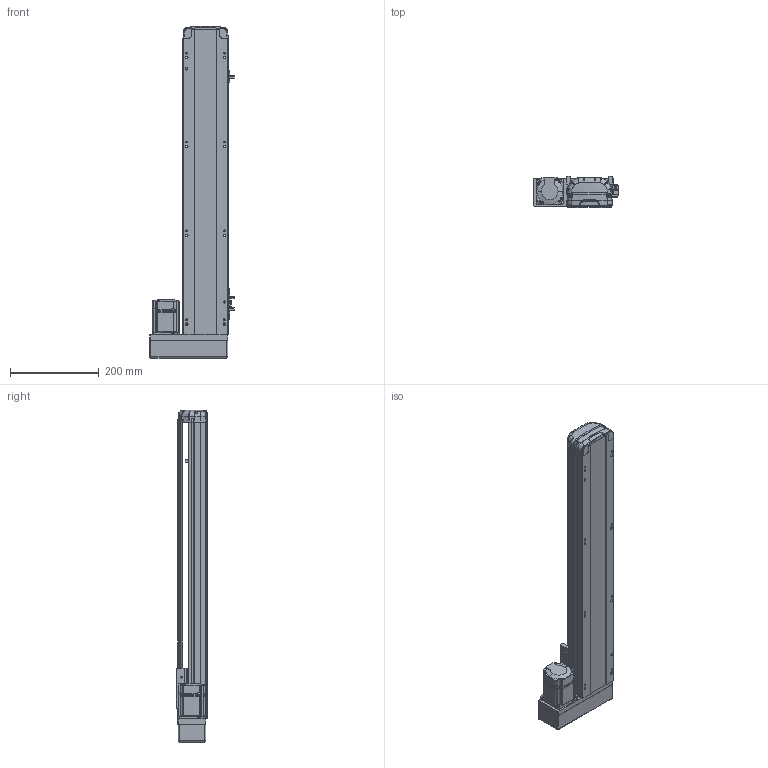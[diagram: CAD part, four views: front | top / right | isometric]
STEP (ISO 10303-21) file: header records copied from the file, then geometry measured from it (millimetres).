
FILE_DESCRIPTION (( 'STEP AP214' ), '1' );
FILE_NAME ('RTH10-XX-500-L-M20-C4.STEP', '2025-10-25T03:46:29', ( 'Microsoft' ), ( 'Microsoft' ), 'SwSTEP 2.0', 'SolidWorks 2018', '' );
FILE_SCHEMA (( 'AUTOMOTIVE_DESIGN' ));
Length unit declared in the file: millimetre
Products named in the file (10): RTH10-XX-500-L-M20-C4; N_RTH12-L-008萇儂啣^RTH10-XX-XX-L-M20-C4; N_RTH12-M-007P-奻裔^RTH10-XX-XX-L-M20-C4; N_RTH12-GY-001P^RTH10-XX-XX-L-M20-C4; N_RTH12-L-018-裔赽^RTH10-XX-XX-L-M20-C4; N_OMRON EE-SX672 传感器^RTH10-XX-XX-L-M20-C4; N_RTH12-GY-004-賑釱^RTH10-XX-XX-L-M20-C4; N_RTH13-L-012覜茼え俋离^RTH10-XX-XX-L-M20-C4; N_200W-1^RTH10-XX-XX-L-M20-C4; N_RTH12-M-011P-臏倰第菁釱^RTH10-XX-XX-L-M20-C4
Assembly tree (11 placements, depth 2):
  RTH10-XX-500-L-M20-C4
    N_RTH12-M-011P-臏倰第菁釱^RTH10-XX-XX-L-M20-C4
    N_RTH13-L-012覜茼え俋离^RTH10-XX-XX-L-M20-C4
    N_OMRON EE-SX672 传感器^RTH10-XX-XX-L-M20-C4  x3
    N_200W-1^RTH10-XX-XX-L-M20-C4
    N_RTH12-M-007P-奻裔^RTH10-XX-XX-L-M20-C4
    N_RTH12-L-008萇儂啣^RTH10-XX-XX-L-M20-C4
    N_RTH12-L-018-裔赽^RTH10-XX-XX-L-M20-C4
    N_RTH12-GY-004-賑釱^RTH10-XX-XX-L-M20-C4
    N_RTH12-GY-001P^RTH10-XX-XX-L-M20-C4
Bounding box: 190 x 70 x 747.14 mm (x, y, z)
Volume: 3514423.8 mm3; surface area: 537199.8 mm2
Topology: 10 solids, 12 shells, 1956 faces, 5443 edges, 3573 vertices
Faces by surface type: plane 979, bspline 472, cylinder 470, cone 29, sphere 4, torus 2
Entity records: 58681 total; most frequent: CARTESIAN_POINT 23149, ORIENTED_EDGE 7958, DIRECTION 6137, EDGE_CURVE 3985, VERTEX_POINT 2617, VECTOR 2143, LINE 2143, AXIS2_PLACEMENT_3D 1997
